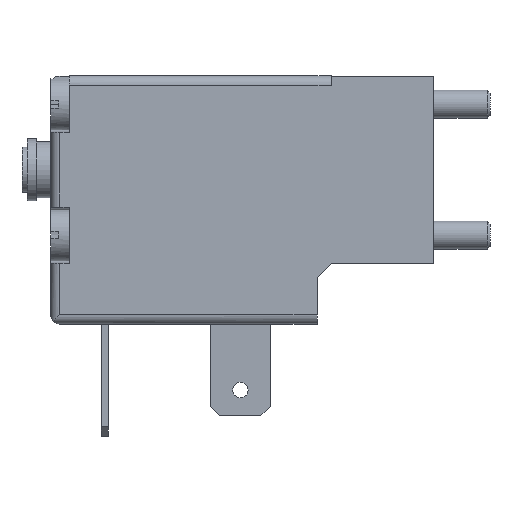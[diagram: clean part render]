
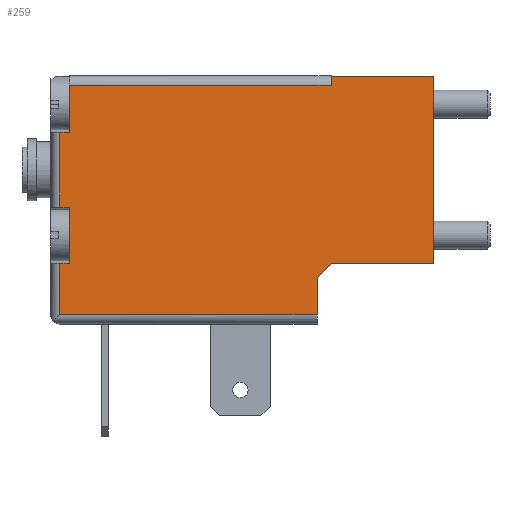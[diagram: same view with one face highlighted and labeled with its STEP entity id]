
A CAD part, left-side view. The second image highlights one B-rep face of the part: STEP entity #259.
In plain terms, the highlighted planar face has unit normal (-1, 0, 0).
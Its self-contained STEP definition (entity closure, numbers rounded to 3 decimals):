
#259 = ADVANCED_FACE( '', ( #598 ), #599, .F. );
#598 = FACE_OUTER_BOUND( '', #1033, .T. );
#599 = PLANE( '', #1034 );
#1033 = EDGE_LOOP( '', ( #1674, #1675, #1676, #1677, #1678, #1679, #1680, #1681, #1682, #1683, #1684, #1685, #1686, #1687, #1688 ) );
#1034 = AXIS2_PLACEMENT_3D( '', #1689, #1690, #1691 );
#1674 = ORIENTED_EDGE( '', *, *, #2544, .F. );
#1675 = ORIENTED_EDGE( '', *, *, #2545, .T. );
#1676 = ORIENTED_EDGE( '', *, *, #2546, .T. );
#1677 = ORIENTED_EDGE( '', *, *, #2478, .T. );
#1678 = ORIENTED_EDGE( '', *, *, #2547, .F. );
#1679 = ORIENTED_EDGE( '', *, *, #2548, .F. );
#1680 = ORIENTED_EDGE( '', *, *, #2501, .F. );
#1681 = ORIENTED_EDGE( '', *, *, #2549, .T. );
#1682 = ORIENTED_EDGE( '', *, *, #2550, .T. );
#1683 = ORIENTED_EDGE( '', *, *, #2456, .F. );
#1684 = ORIENTED_EDGE( '', *, *, #2551, .F. );
#1685 = ORIENTED_EDGE( '', *, *, #2432, .F. );
#1686 = ORIENTED_EDGE( '', *, *, #2552, .T. );
#1687 = ORIENTED_EDGE( '', *, *, #2553, .T. );
#1688 = ORIENTED_EDGE( '', *, *, #2475, .F. );
#1689 = CARTESIAN_POINT( '', ( -10., 0., 0. ) );
#1690 = DIRECTION( '', ( 1., 0., 0. ) );
#1691 = DIRECTION( '', ( 0., 0., -1. ) );
#2432 = EDGE_CURVE( '', #2889, #2890, #2891, .T. );
#2456 = EDGE_CURVE( '', #2931, #2932, #2933, .T. );
#2475 = EDGE_CURVE( '', #2961, #2963, #2964, .T. );
#2478 = EDGE_CURVE( '', #2967, #2968, #2969, .T. );
#2501 = EDGE_CURVE( '', #3004, #3000, #3006, .T. );
#2544 = EDGE_CURVE( '', #3069, #2961, #3070, .T. );
#2545 = EDGE_CURVE( '', #3069, #3071, #3072, .T. );
#2546 = EDGE_CURVE( '', #3071, #2967, #3073, .T. );
#2547 = EDGE_CURVE( '', #3074, #2968, #3075, .T. );
#2548 = EDGE_CURVE( '', #3000, #3074, #3076, .T. );
#2549 = EDGE_CURVE( '', #3004, #3077, #3078, .T. );
#2550 = EDGE_CURVE( '', #3077, #2932, #3079, .T. );
#2551 = EDGE_CURVE( '', #2890, #2931, #3080, .T. );
#2552 = EDGE_CURVE( '', #2889, #3081, #3082, .T. );
#2553 = EDGE_CURVE( '', #3081, #2963, #3083, .T. );
#2889 = VERTEX_POINT( '', #3517 );
#2890 = VERTEX_POINT( '', #3518 );
#2891 = LINE( '', #3519, #3520 );
#2931 = VERTEX_POINT( '', #3572 );
#2932 = VERTEX_POINT( '', #3573 );
#2933 = LINE( '', #3574, #3575 );
#2961 = VERTEX_POINT( '', #3611 );
#2963 = VERTEX_POINT( '', #3614 );
#2964 = LINE( '', #3615, #3616 );
#2967 = VERTEX_POINT( '', #3619 );
#2968 = VERTEX_POINT( '', #3620 );
#2969 = LINE( '', #3621, #3622 );
#3000 = VERTEX_POINT( '', #3661 );
#3004 = VERTEX_POINT( '', #3667 );
#3006 = LINE( '', #3670, #3671 );
#3069 = VERTEX_POINT( '', #3752 );
#3070 = LINE( '', #3753, #3754 );
#3071 = VERTEX_POINT( '', #3755 );
#3072 = LINE( '', #3756, #3757 );
#3073 = LINE( '', #3758, #3759 );
#3074 = VERTEX_POINT( '', #3760 );
#3075 = LINE( '', #3761, #3762 );
#3076 = LINE( '', #3763, #3764 );
#3077 = VERTEX_POINT( '', #3765 );
#3078 = LINE( '', #3766, #3767 );
#3079 = LINE( '', #3768, #3769 );
#3080 = LINE( '', #3770, #3771 );
#3081 = VERTEX_POINT( '', #3772 );
#3082 = LINE( '', #3773, #3774 );
#3083 = LINE( '', #3775, #3776 );
#3517 = CARTESIAN_POINT( '', ( -10., 28., 4. ) );
#3518 = CARTESIAN_POINT( '', ( -10., 28., 9.05 ) );
#3519 = CARTESIAN_POINT( '', ( -10., 28., 0. ) );
#3520 = VECTOR( '', #4206, 1000. );
#3572 = CARTESIAN_POINT( '', ( -10., 0., 9.05 ) );
#3573 = CARTESIAN_POINT( '', ( -10., 0., 10. ) );
#3574 = CARTESIAN_POINT( '', ( -10., 0., 0. ) );
#3575 = VECTOR( '', #4240, 1000. );
#3611 = CARTESIAN_POINT( '', ( -10., 28., -4. ) );
#3614 = CARTESIAN_POINT( '', ( -10., 29., -4. ) );
#3615 = CARTESIAN_POINT( '', ( -10., 28., -4. ) );
#3616 = VECTOR( '', #4265, 1000. );
#3619 = CARTESIAN_POINT( '', ( -10., 29., -15.5 ) );
#3620 = CARTESIAN_POINT( '', ( -10., 1.5, -15.5 ) );
#3621 = CARTESIAN_POINT( '', ( -10., 30., -15.5 ) );
#3622 = VECTOR( '', #4269, 1000. );
#3661 = CARTESIAN_POINT( '', ( -10., 0., -10. ) );
#3667 = CARTESIAN_POINT( '', ( -10., -11., -10. ) );
#3670 = CARTESIAN_POINT( '', ( -10., -11., -10. ) );
#3671 = VECTOR( '', #4299, 1000. );
#3752 = CARTESIAN_POINT( '', ( -10., 28., -10. ) );
#3753 = CARTESIAN_POINT( '', ( -10., 28., 0. ) );
#3754 = VECTOR( '', #4360, 1000. );
#3755 = CARTESIAN_POINT( '', ( -10., 29., -10. ) );
#3756 = CARTESIAN_POINT( '', ( -10., 0., -10. ) );
#3757 = VECTOR( '', #4361, 1000. );
#3758 = CARTESIAN_POINT( '', ( -10., 29., 10. ) );
#3759 = VECTOR( '', #4362, 1000. );
#3760 = CARTESIAN_POINT( '', ( -10., 1.5, -11.5 ) );
#3761 = CARTESIAN_POINT( '', ( -10., 1.5, -11.5 ) );
#3762 = VECTOR( '', #4363, 1000. );
#3763 = CARTESIAN_POINT( '', ( -10., 0., -10. ) );
#3764 = VECTOR( '', #4364, 1000. );
#3765 = CARTESIAN_POINT( '', ( -10., -11., 10. ) );
#3766 = CARTESIAN_POINT( '', ( -10., -11., -10. ) );
#3767 = VECTOR( '', #4365, 1000. );
#3768 = CARTESIAN_POINT( '', ( -10., -11., 10. ) );
#3769 = VECTOR( '', #4366, 1000. );
#3770 = CARTESIAN_POINT( '', ( -10., 30., 9.05 ) );
#3771 = VECTOR( '', #4367, 1000. );
#3772 = CARTESIAN_POINT( '', ( -10., 29., 4. ) );
#3773 = CARTESIAN_POINT( '', ( -10., 28., 4. ) );
#3774 = VECTOR( '', #4368, 1000. );
#3775 = CARTESIAN_POINT( '', ( -10., 29., 10. ) );
#3776 = VECTOR( '', #4369, 1000. );
#4206 = DIRECTION( '', ( 0., 0., 1. ) );
#4240 = DIRECTION( '', ( 0., 0., 1. ) );
#4265 = DIRECTION( '', ( 0., 1., 0. ) );
#4269 = DIRECTION( '', ( 0., -1., 0. ) );
#4299 = DIRECTION( '', ( 0., 1., 0. ) );
#4360 = DIRECTION( '', ( 0., 0., 1. ) );
#4361 = DIRECTION( '', ( 0., 1., 0. ) );
#4362 = DIRECTION( '', ( 0., 0., -1. ) );
#4363 = DIRECTION( '', ( 0., 0., -1. ) );
#4364 = DIRECTION( '', ( 0., 0.707, -0.707 ) );
#4365 = DIRECTION( '', ( 0., 0., 1. ) );
#4366 = DIRECTION( '', ( 0., 1., 0. ) );
#4367 = DIRECTION( '', ( 0., -1., 0. ) );
#4368 = DIRECTION( '', ( 0., 1., 0. ) );
#4369 = DIRECTION( '', ( 0., 0., -1. ) );
